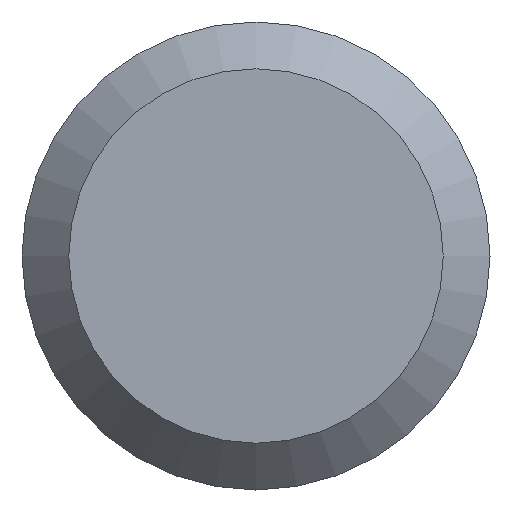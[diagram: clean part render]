
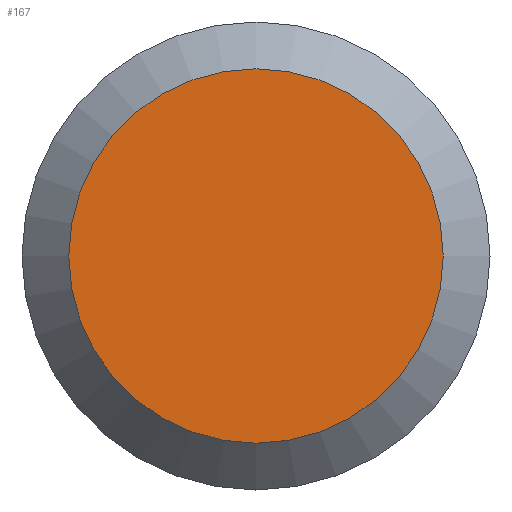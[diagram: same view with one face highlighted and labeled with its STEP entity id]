
A CAD part, left-side view. The second image highlights one B-rep face of the part: STEP entity #167.
In plain terms, the highlighted planar face has unit normal (-1, 0, 0).
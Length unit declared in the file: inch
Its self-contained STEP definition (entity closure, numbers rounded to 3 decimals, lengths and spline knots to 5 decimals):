
#6 = EDGE_LOOP ( 'NONE', ( #40 ) ) ;
#22 = DIRECTION ( 'NONE',  ( 1., 0., 0. ) ) ;
#40 = ORIENTED_EDGE ( 'NONE', *, *, #229, .T. ) ;
#56 = DIRECTION ( 'NONE',  ( 0., 0., -1. ) ) ;
#127 = CARTESIAN_POINT ( 'NONE',  ( 0., 0., 0. ) ) ;
#129 = DIRECTION ( 'NONE',  ( -1., 0., 0. ) ) ;
#131 = DIRECTION ( 'NONE',  ( 0., 0., -1. ) ) ;
#146 = CARTESIAN_POINT ( 'NONE',  ( 0., 0.07031, 0. ) ) ;
#149 = PLANE ( 'NONE',  #161 ) ;
#161 = AXIS2_PLACEMENT_3D ( 'NONE', #146, #22, #56 ) ;
#162 = AXIS2_PLACEMENT_3D ( 'NONE', #127, #129, #131 ) ;
#166 = CARTESIAN_POINT ( 'NONE',  ( 0., 0., -0.05625 ) ) ;
#167 = ADVANCED_FACE ( 'NONE', ( #172 ), #149, .F. ) ;
#172 = FACE_OUTER_BOUND ( 'NONE', #6, .T. ) ;
#203 = CIRCLE ( 'NONE', #162, 0.05625 ) ;
#229 = EDGE_CURVE ( 'NONE', #244, #244, #203, .T. ) ;
#244 = VERTEX_POINT ( 'NONE', #166 ) ;
